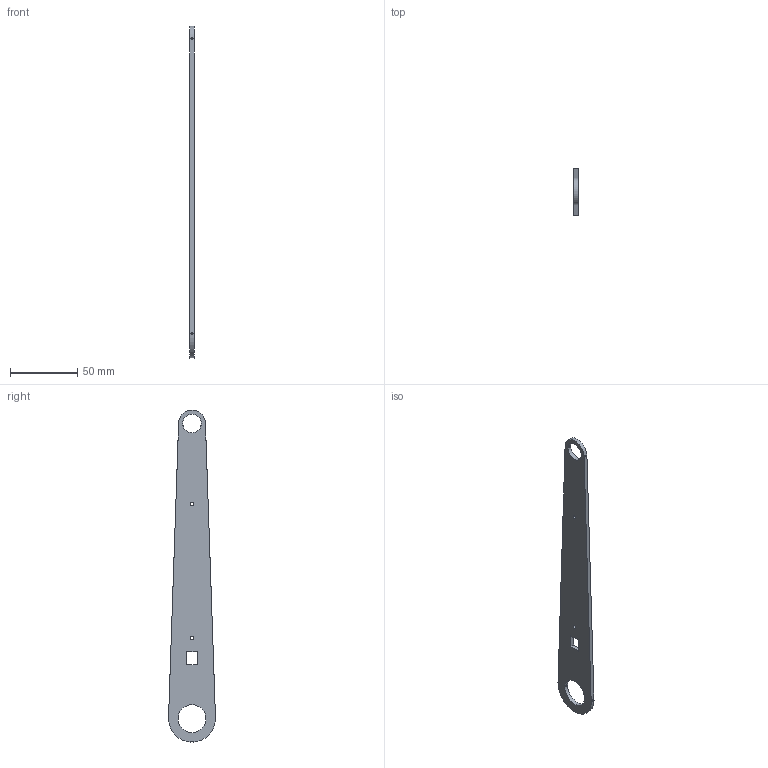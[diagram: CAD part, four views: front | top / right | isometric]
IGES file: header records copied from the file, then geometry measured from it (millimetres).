
Start section: START RECORD GO HERE.
Global section: file name: 5.igs; native system: DASSAULT SYSTEMES CATIA V5 R21 - www.3ds.com; preprocessor: 27HCATIA Version 5 Release 21; author: E___; organization: MSI; date: 20160805.131204; units: millimetre
Bounding box: 3 x 35 x 247.44 mm (x, y, z)
Surface area: 14368.4 mm2 (no closed solid volume)
Topology: 0 solids, 0 shells, 26 faces, 176 edges, 176 vertices
Faces by surface type: revolution 18, plane 8
